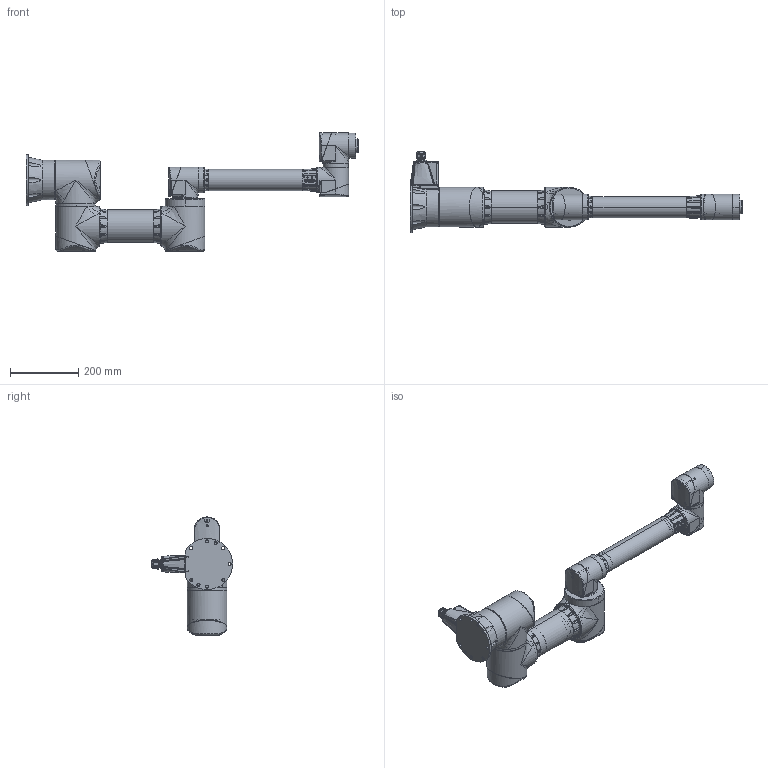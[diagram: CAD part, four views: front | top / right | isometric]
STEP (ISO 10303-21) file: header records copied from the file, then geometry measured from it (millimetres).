
FILE_DESCRIPTION((''),'2;1');
FILE_NAME('ZRA_0507N_ASM','2022-11-10T09:19:52',('ChoSeongHee'),(''),'CREO PARAMETRIC BY PTC INC, 2020354','CREO PARAMETRIC BY PTC INC, 2020354','');
FILE_SCHEMA(('CONFIG_CONTROL_DESIGN'));
Products named in the file (25): FLANGE_B; HOLDER_M; COVER_M; MODULE_M_ASM; RING_M; ARM1_PIPE; FLANGE_ARM1; ARM1_ASM; FLANGE_J3; HOLDER_S; COVER_S; MODULE_S_ASM; PIPE2; FLANGE_J4; FLANGE_J5; PLATE; PORT; ARM2_ASM; FLANGE_E; RING_S; COVER_J; CABLE; PLATE_J; COVER_J_ASM; ZRA_0507N_ASM
Assembly tree (29 placements, depth 3):
  ZRA_0507N_ASM
    FLANGE_B
    MODULE_M_ASM  x3
      HOLDER_M
      COVER_M
    RING_M
    ARM1_ASM
      ARM1_PIPE
      FLANGE_ARM1  x2
    FLANGE_J3
    MODULE_S_ASM  x3
      HOLDER_S
      COVER_S
    ARM2_ASM
      PIPE2
      FLANGE_J4
      FLANGE_J5
      PLATE
      PORT
    FLANGE_E
    RING_S
    COVER_J_ASM
      COVER_J
      CABLE
      PLATE_J
Bounding box: 970.1 x 237.3 x 344.89 mm (x, y, z)
Volume: 11657381.8 mm3; surface area: 912841.9 mm2
Topology: 28 solids, 212 shells, 3861 faces, 10478 edges, 6914 vertices
Faces by surface type: cylinder 1409, plane 1297, bspline 650, torus 269, cone 210, sphere 18, extrusion 8
Entity records: 146255 total; most frequent: CARTESIAN_POINT 72340, ORIENTED_EDGE 16264, DIRECTION 13894, EDGE_CURVE 8266, VERTEX_POINT 5414, AXIS2_PLACEMENT_3D 5218, VECTOR 3458, LINE 3450
